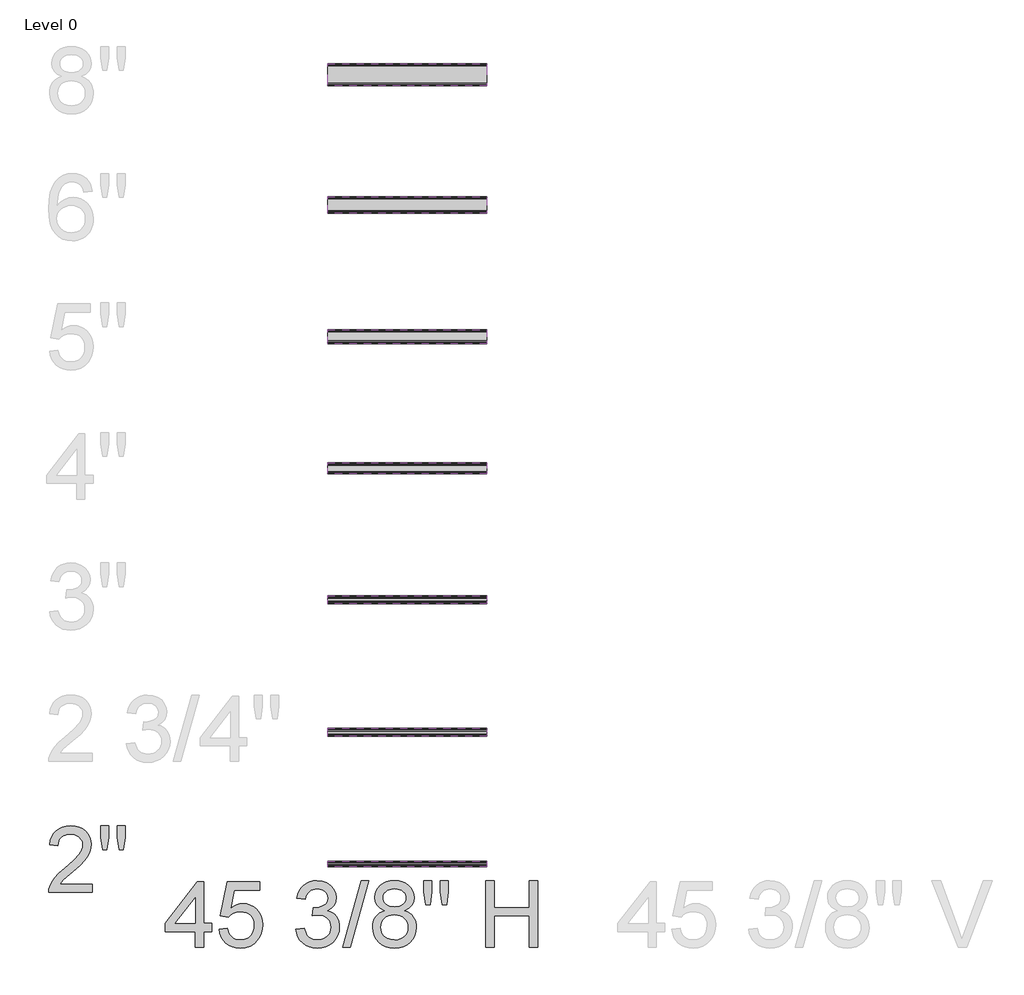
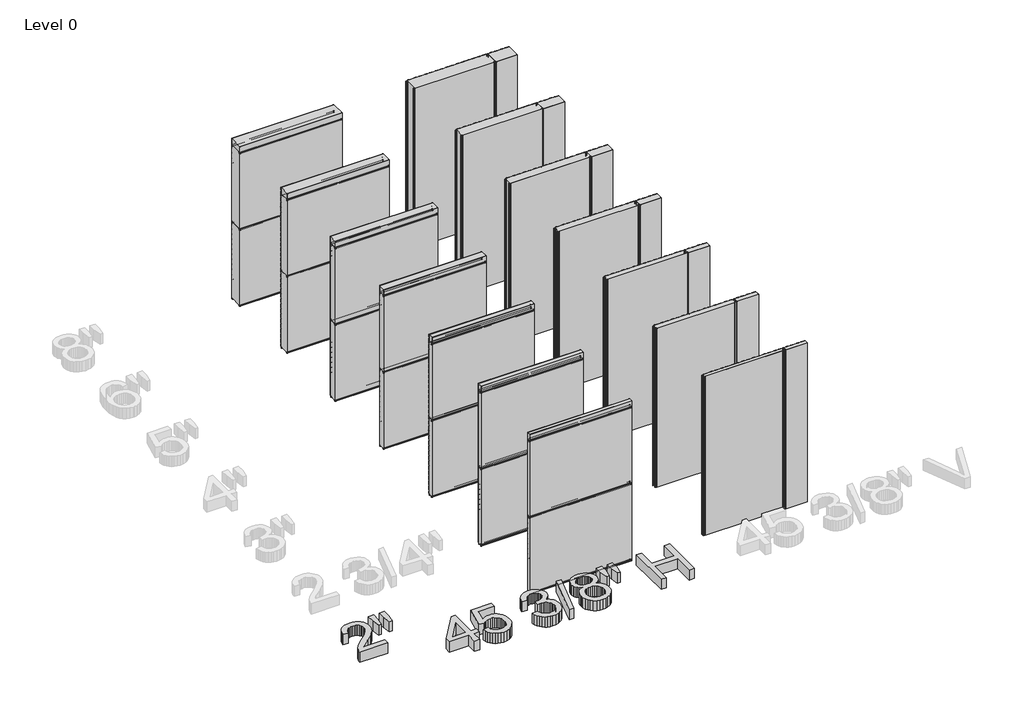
# One storey, part 1 of 4: 35 plates, 2 proxies.
"""IFC4 building model written with IfcOpenShell, lengths in millimetres."""

from ifc_helpers import new_model, si_unit, origin, origin_with_axes, place, context, project, spatial, polyline, outline, extrude, transform, mapped, element, save
from components import plate_b4bd3f8d, plate_808f4461, plate_7cffec9f, plate_dfe21606, plate_f405e83f, plate_c9c1584d, plate_8344565c, plate_b0cb46f3, plate_9a0fc9c3, plate_41ea3fa6, plate_d1124c66, plate_76d6c2d0, plate_83f6242e, plate_c82851e5, plate_ce0f698b, plate_97a75773, plate_03f01161, plate_ad2471ad, plate_72227fcf, plate_d750eb13, plate_2a786ad6, plate_18e5794d, plate_cbcabc05, plate_6ea44dff, plate_e84ce2d3, plate_d6ec243f, plate_7eeeccd8, plate_f524b7f3, plate_4dfbf4fa, plate_f636fb03, plate_2ca165b3, plate_3c036621, plate_5dd1f924, plate_6aa7e515, plate_86622dce, plate_694a5b55, plate_7aa5751e, plate_44be25aa, plate_39fb91ab, plate_13c998c9, plate_3bc6385e, plate_881e7684, plate_8b274d8f, plate_b0e5fa2d

model = new_model("IFC4")

# Units and contexts
model_context = context("Model", 3, world=origin())
ifc_project = project(units=[si_unit("LENGTHUNIT", "METRE", prefix="MILLI")], contexts=[model_context])

# Site, building, storey
site = spatial("IfcSite", under=ifc_project)
building = spatial("IfcBuilding", under=site)
storey = spatial("IfcBuildingStorey", under=building, Name="Level 0", Elevation=0.0)

# Proxies
placement = place(None, origin())
element("IfcBuildingElementProxy", 1, Name="24\" Arial", ObjectType="24\" Arial", at=placement, inside=storey, context=model_context, shape_type="SweptSolid", body=[
    extrude(outline(polyline([(-10393.0706225, 6438.6033745), (-10393.0706225, 6581.3691999), (-10669.0845515, 6581.3691999), (-10669.0845515, 6657.5109734), (-10374.0351791, 7038.219841), (-10316.928849, 7038.219841), (-10316.928849, 6657.5109734), (-10240.7870755, 6657.5109734), (-10240.7870755, 6581.3691999), (-10316.928849, 6581.3691999), (-10316.928849, 6438.6033745), (-10393.0706225, 6438.6033745)]), holes=[polyline([(-10393.0706225, 6657.5109734), (-10393.0706225, 6892.7771564), (-10575.3944786, 6657.5109734), (-10393.0706225, 6657.5109734)])]), origin_with_axes(), (0.0, 0.0, 1.0), 152.4),
    extrude(outline(polyline([(-10174.1630236, 6600.4046433), (-10098.0212501, 6609.922365), (-10092.3329243, 6585.4449039), (-10084.0420964, 6564.2112758), (-10073.1487665, 6546.2214806), (-10059.6529346, 6531.4755182), (-10043.5824846, 6519.991978), (-10024.9653004, 6511.7894493), (-10003.8013822, 6506.8679321), (-9980.0907298, 6505.2274264), (-9951.0914215, 6507.509263), (-9925.5125445, 6514.3547728), (-9903.3540987, 6525.7639557), (-9884.6160841, 6541.7368119), (-9869.71676, 6561.483296), (-9859.0743857, 6584.2133628), (-9852.6889611, 6609.9270123), (-9850.5604862, 6638.6242444), (-9852.5541886, 6665.7460334), (-9858.535296, 6689.8563557), (-9868.5038082, 6710.9552114), (-9882.4597253, 6729.0426005), (-9900.4495205, 6743.5515493), (-9922.5196672, 6753.9150841), (-9948.6701652, 6760.133205), (-9978.9010146, 6762.205912), (-10015.837954, 6758.8970166), (-10045.748138, 6748.9703303), (-10069.6353888, 6733.7642827), (-10088.5035284, 6714.6173035), (-10164.6453019, 6724.1350252), (-10098.0212501, 7038.219841), (-9802.9718777, 7038.219841), (-9802.9718777, 6962.0780675), (-10036.4534879, 6962.0780675), (-10069.0219418, 6794.3282227), (-10042.1511084, 6813.5867377), (-10014.6296495, 6827.3428198), (-9986.4575651, 6835.5964691), (-9957.6348552, 6838.3476855), (-9920.5538487, 6834.9365489), (-9886.4936034, 6824.7031392), (-9855.4541195, 6807.6474563), (-9827.4353968, 6783.7695002), (-9804.2405975, 6754.528531), (-9787.6728837, 6721.3838088), (-9777.7322554, 6684.3353336), (-9774.4187127, 6643.3831053), (-9777.4022954, 6603.9366103), (-9786.3530434, 6567.2413317), (-9801.2709568, 6533.2972696), (-9822.1560355, 6502.1044239), (-9853.7950244, 6470.1587116), (-9890.7133746, 6447.3403456), (-9932.911086, 6433.649326), (-9980.3881586, 6429.0856528), (-10019.6812919, 6432.018115), (-10055.1729132, 6440.8155013), (-10086.8630227, 6455.4778118), (-10114.7516203, 6476.0050465), (-10137.9557142, 6501.3747939), (-10155.5923128, 6530.5646425), (-10167.6614159, 6563.5745923), (-10174.1630236, 6600.4046433)])), origin_with_axes(), (0.0, 0.0, 1.0), 152.4),
    extrude(outline(polyline([(-9469.8516186, 6600.4046433), (-9393.7098451, 6609.922365), (-9376.6634568, 6562.0735063), (-9365.170622, 6543.9768226), (-9351.6980267, 6529.7653026), (-9335.9389475, 6519.0299817), (-9317.5866609, 6511.3618954), (-9296.6411669, 6506.7610436), (-9273.1024656, 6505.2274264), (-9245.5159441, 6507.3373119), (-9220.9037107, 6513.6669686), (-9199.2657653, 6524.2163965), (-9180.6021079, 6538.9855955), (-9165.5726587, 6556.8685023), (-9154.8373378, 6576.7590534), (-9148.3961453, 6598.657249), (-9146.2490812, 6622.5630891), (-9148.377556, 6645.3303345), (-9154.7629806, 6666.0434622), (-9165.405355, 6684.7024722), (-9180.3046791, 6701.3073646), (-9198.4850146, 6714.937969), (-9218.9704234, 6724.6741149), (-9241.7609055, 6730.5158025), (-9266.8564607, 6732.4630317), (-9290.9110151, 6730.3810301), (-9320.2449308, 6724.1350252), (-9311.7682099, 6800.2767987), (-9299.573629, 6799.3845123), (-9253.9554864, 6804.8497666), (-9213.1705618, 6821.2455293), (-9196.3844237, 6833.6445926), (-9184.3943251, 6848.9807652), (-9177.2002659, 6867.2540473), (-9174.8022462, 6888.4644388), (-9176.5403458, 6905.6827781), (-9181.7546445, 6921.3489108), (-9190.4451423, 6935.4628369), (-9202.6118393, 6948.0245565), (-9217.520458, 6958.3369708), (-9234.4367212, 6965.702981), (-9253.3606288, 6970.1225871), (-9274.2921808, 6971.5957892), (-9295.1679649, 6970.1086451), (-9314.2219975, 6965.6472131), (-9331.4542788, 6958.211493), (-9346.8648086, 6947.8014849), (-9360.0725064, 6934.4171888), (-9370.6962915, 6918.0586047), (-9378.7361638, 6898.7257325), (-9384.1921234, 6876.4185723), (-9460.3338969, 6885.936294), (-9451.3087917, 6922.2876704), (-9437.9152009, 6954.30774), (-9420.1531246, 6981.9965026), (-9398.0225627, 7005.3539583), (-9372.2206141, 7023.8967852), (-9343.4443774, 7037.1416616), (-9311.6938527, 7045.0885874), (-9276.96904, 7047.7375627), (-9229.101592, 7042.5139693), (-9185.1378971, 7026.8431893), (-9148.0708326, 7002.11942), (-9120.8932757, 6969.7368591), (-9104.2186735, 6932.4281337), (-9098.6604727, 6892.9258708), (-9103.939834, 6856.1190565), (-9119.7779177, 6822.7326734), (-9145.9516524, 6794.2910441), (-9182.2379663, 6772.3184913), (-9156.8635716, 6764.3808601), (-9134.5750006, 6753.0599763), (-9115.3722536, 6738.3558399), (-9099.2553303, 6720.2684508), (-9086.5030704, 6699.2439523), (-9077.3943133, 6675.7284876), (-9071.9290591, 6649.7220566), (-9070.1073076, 6621.2246595), (-9073.7508105, 6582.5960937), (-9084.681319, 6547.0161732), (-9102.8988331, 6514.4848979), (-9128.403353, 6485.0022678), (-9159.4753682, 6460.5387487), (-9194.3953686, 6443.0648066), (-9233.1633541, 6432.5804413), (-9275.7793248, 6429.0856528), (-9314.2963547, 6432.0692355), (-9349.3929535, 6441.0199836), (-9381.069121, 6455.937897), (-9409.3248572, 6476.8229757), (-9433.0169203, 6502.448326), (-9451.0020682, 6531.587054), (-9463.280301, 6564.2391598), (-9469.8516186, 6600.4046433)])), origin_with_axes(), (0.0, 0.0, 1.0), 152.4),
    extrude(outline(polyline([(-9041.5541426, 6438.6033745), (-8870.2351522, 7047.7375627), (-8801.5290987, 7047.7375627), (-8972.8480891, 6438.6033745), (-9041.5541426, 6438.6033745)])), origin_with_axes(), (0.0, 0.0, 1.0), 152.4),
    extrude(outline(polyline([(-8654.5992701, 6774.1030641), (-8695.3656054, 6794.1795083), (-8711.1897472, 6806.8945896), (-8723.9745384, 6821.3942437), (-8733.8315148, 6837.5390509), (-8740.8722122, 6855.1895915), (-8746.5047702, 6895.0078724), (-8743.4375357, 6926.0612984), (-8734.2358321, 6954.5308116), (-8718.8996594, 6980.4164121), (-8697.4290177, 7003.7180999), (-8670.8556131, 7022.9766148), (-8640.2111518, 7036.732697), (-8605.4956337, 7044.9863462), (-8566.7090589, 7047.7375627), (-8527.7365911, 7044.9212837), (-8492.7608228, 7036.4724468), (-8461.7817541, 7022.3910519), (-8434.7993849, 7002.677099), (-8412.9383679, 6978.9199734), (-8397.3233557, 6952.7090602), (-8387.9543484, 6924.0443593), (-8384.831346, 6892.9258708), (-8390.3895467, 6854.3902516), (-8407.064149, 6821.1711721), (-8419.6165739, 6806.7691118), (-8435.0410458, 6794.1237404), (-8474.50613, 6774.1030641), (-8449.4802847, 6763.4560424), (-8427.6425043, 6749.9555632), (-8408.9927889, 6733.6016263), (-8393.5311385, 6714.3942319), (-8381.3969728, 6692.7609339), (-8372.7297116, 6669.129286), (-8367.5293548, 6643.4992884), (-8365.7959026, 6615.870941), (-8369.2349231, 6577.8930007), (-8379.5519847, 6543.0752415), (-8396.7470874, 6511.4176633), (-8420.8202311, 6482.9202662), (-8450.5073435, 6459.3676228), (-8484.5443521, 6442.5443062), (-8522.931257, 6432.4503162), (-8565.6680581, 6429.0856528), (-8608.4048592, 6432.4642582), (-8646.7917641, 6442.6000741), (-8680.8287727, 6459.4931006), (-8710.5158851, 6483.1433378), (-8734.5890288, 6511.8405699), (-8751.7841314, 6543.8745814), (-8762.101193, 6579.2453723), (-8765.5402136, 6617.9529426), (-8763.7370515, 6646.8407151), (-8758.3275651, 6673.2746999), (-8749.3117545, 6697.2548972), (-8736.6896197, 6718.7813068), (-8720.7400002, 6737.4635535), (-8701.7417354, 6752.9112619), (-8679.6948254, 6765.1244321), (-8654.5992701, 6774.1030641)]), holes=[polyline([(-8670.3629967, 6892.7771564), (-8668.6760177, 6875.3218036), (-8663.6150807, 6859.5394877), (-8655.1801858, 6845.4302089), (-8643.3713328, 6832.9939671), (-8628.3372363, 6822.8442092), (-8610.2266106, 6815.5943821), (-8589.0394557, 6811.2444858), (-8564.7757717, 6809.7945204), (-8541.1115926, 6811.2351912), (-8520.3845229, 6815.5572035), (-8502.5945626, 6822.7605573), (-8487.7417118, 6832.8452527), (-8476.0304526, 6845.0212443), (-8467.6652676, 6858.4984869), (-8462.6461565, 6873.2769805), (-8460.9731195, 6889.3567252), (-8462.7019244, 6906.0638587), (-8467.8883392, 6921.3860894), (-8476.5323638, 6935.3234172), (-8488.6339982, 6947.8758421), (-8503.8214564, 6958.253319), (-8521.7229525, 6965.6658024), (-8542.3384864, 6970.1132925), (-8565.6680581, 6971.5957892), (-8589.1788755, 6970.1458237), (-8609.8920032, 6965.7959275), (-8627.8074413, 6958.5461004), (-8642.9251896, 6948.3963425), (-8654.9292302, 6936.2203509), (-8663.5035449, 6922.8918227), (-8668.6481337, 6908.4107579), (-8670.3629967, 6892.7771564)]), polyline([(-8689.3984401, 6620.6298019), (-8686.2196697, 6591.5003685), (-8676.6833587, 6563.3004001), (-8659.0792915, 6538.706756), (-8631.6972523, 6520.3962953), (-8598.9057268, 6509.0196436), (-8565.0732005, 6505.2274264), (-8537.5424469, 6507.2211288), (-8513.2462316, 6513.2022361), (-8492.1845545, 6523.1707484), (-8474.3574156, 6537.1266655), (-8460.1737796, 6554.1591118), (-8450.042611, 6573.3572115), (-8443.9639098, 6594.7209647), (-8441.9376761, 6618.2503714), (-8444.0289724, 6642.1562115), (-8450.3028612, 6663.9056927), (-8460.7593426, 6683.498815), (-8475.3984164, 6700.9355786), (-8493.7088771, 6715.2493397), (-8515.1795188, 6725.4734548), (-8539.8103415, 6731.6079239), (-8567.6013453, 6733.6527469), (-8594.7277816, 6731.6358078), (-8618.7033315, 6725.5849906), (-8639.527995, 6715.5002953), (-8657.2017722, 6701.3817218), (-8671.2878144, 6684.2330924), (-8681.3492731, 6665.0582293), (-8687.3861483, 6643.8571324), (-8689.3984401, 6620.6298019)])]), origin_with_axes(), (0.0, 0.0, 1.0), 152.4),
    extrude(outline(polyline([(-8280.5825506, 6828.8299638), (-8299.1718508, 6946.4630553), (-8299.1718508, 7047.7375627), (-8223.0300773, 7047.7375627), (-8223.0300773, 6946.4630553), (-8239.6860902, 6828.8299638), (-8280.5825506, 6828.8299638)])), origin_with_axes(), (0.0, 0.0, 1.0), 152.4),
    extrude(outline(polyline([(-8128.7451468, 6828.8299638), (-8146.8883037, 6946.4630553), (-8146.8883037, 7047.7375627), (-8070.7465302, 7047.7375627), (-8070.7465302, 6946.4630553), (-8088.5922584, 6828.8299638), (-8128.7451468, 6828.8299638)])), origin_with_axes(), (0.0, 0.0, 1.0), 152.4),
    extrude(outline(polyline([(-7728.1085494, 6438.6033745), (-7728.1085494, 7047.7375627), (-7651.9667759, 7047.7375627), (-7651.9667759, 6800.2767987), (-7328.3642384, 6800.2767987), (-7328.3642384, 7047.7375627), (-7252.2224649, 7047.7375627), (-7252.2224649, 6438.6033745), (-7328.3642384, 6438.6033745), (-7328.3642384, 6724.1350252), (-7651.9667759, 6724.1350252), (-7651.9667759, 6438.6033745), (-7728.1085494, 6438.6033745)])), origin_with_axes(), (0.0, 0.0, 1.0), 152.4),
])
element("IfcBuildingElementProxy", 2, Name="24\" Arial", ObjectType="24\" Arial", at=placement, inside=storey, context=model_context, shape_type="SweptSolid", body=[
    extrude(outline(polyline([(-11338.064642, 7016.681133), (-11338.064642, 6940.5393595), (-11737.808953, 6940.5393595), (-11736.135916, 6967.3451304), (-11729.6296609, 6993.0355432), (-11710.8544677, 7034.0621287), (-11683.3794821, 7073.8618204), (-11643.6355583, 7115.520442), (-11588.0535508, 7162.1238176), (-11505.888844, 7235.1054101), (-11456.5900199, 7288.977202), (-11442.2111963, 7310.9869334), (-11431.9406079, 7332.699236), (-11425.7782549, 7354.1141098), (-11423.7241372, 7375.2315548), (-11425.6620718, 7395.0988694), (-11431.4758754, 7413.3582095), (-11441.1655481, 7430.0095751), (-11454.7310899, 7445.0529662), (-11471.4196342, 7457.5124447), (-11490.4783142, 7466.4120722), (-11511.9071299, 7471.7518486), (-11535.7060815, 7473.5317741), (-11560.7784001, 7471.7936746), (-11583.2017434, 7466.5793759), (-11602.9761115, 7457.888878), (-11620.1015043, 7445.7221811), (-11633.9551802, 7430.4882496), (-11643.9143978, 7412.5960481), (-11649.979157, 7392.0455768), (-11652.1494578, 7368.8368355), (-11728.2912313, 7378.3545572), (-11721.7431503, 7417.6616324), (-11709.8320562, 7452.0053645), (-11692.557949, 7481.3857534), (-11669.9208288, 7505.8027992), (-11642.4411958, 7524.9962517), (-11610.6395505, 7538.7058605), (-11574.5158929, 7546.9316259), (-11534.0702231, 7549.6735476), (-11493.2620619, 7546.6249024), (-11456.9432167, 7537.4789667), (-11425.1136874, 7522.2357406), (-11397.7734742, 7500.895224), (-11375.8148634, 7475.0375074), (-11360.1301413, 7446.2426815), (-11350.7193081, 7414.5107461), (-11347.5823637, 7379.8417012), (-11350.9656164, 7343.4252622), (-11361.1153742, 7307.6408594), (-11379.1284061, 7271.2430096), (-11406.1014807, 7232.9862299), (-11449.098532, 7187.3123193), (-11515.1834941, 7128.6630773), (-11602.7762765, 7055.4212346), (-11637.1293032, 7016.681133), (-11338.064642, 7016.681133)])), origin_with_axes(), (0.0, 0.0, 1.0), 152.4),
    extrude(outline(polyline([(-11243.3335683, 7330.7659488), (-11261.9228685, 7448.3990403), (-11261.9228685, 7549.6735476), (-11185.781095, 7549.6735476), (-11185.781095, 7448.3990403), (-11202.437108, 7330.7659488), (-11243.3335683, 7330.7659488)])), origin_with_axes(), (0.0, 0.0, 1.0), 152.4),
    extrude(outline(polyline([(-11091.4961645, 7330.7659488), (-11109.6393215, 7448.3990403), (-11109.6393215, 7549.6735476), (-11033.497548, 7549.6735476), (-11033.497548, 7448.3990403), (-11051.3432761, 7330.7659488), (-11091.4961645, 7330.7659488)])), origin_with_axes(), (0.0, 0.0, 1.0), 152.4),
])

# Plates
plate_shape = plate_b4bd3f8d(model_context)
plate_2_shape = plate_808f4461(model_context)
plate_3_shape = plate_7cffec9f(model_context)
element("IfcPlate", 3, ObjectType="KIP-SLI-FLI-R19-CP-Hz-FL_SL : Hz 2\"", at=placement, inside=storey, context=model_context, shape_type="MappedRepresentation", body=[
    mapped(plate_shape, transform((-8448.7250935, 7224.2207172, 0.0), x_axis=(1.0, 0.0, 0.0), y_axis=(0.0, 1.0, 0.0), z_axis=(0.0, 0.0, 1.0))),
    mapped(plate_2_shape, transform((-8448.7250935, 7224.2207172, 0.0), x_axis=(1.0, 0.0, 0.0), y_axis=(0.0, 1.0, 0.0), z_axis=(0.0, 0.0, 1.0))),
    mapped(plate_3_shape, transform((-8448.7250935, 7224.2207172, 0.0), x_axis=(1.0, 0.0, 0.0), y_axis=(0.0, 1.0, 0.0), z_axis=(0.0, 0.0, 1.0))),
])
element("IfcPlate", 4, ObjectType="KIP-SLI-FLI-R19-CP-Hz-FL_SL : Hz 2\"", at=placement, inside=storey, context=model_context, shape_type="MappedRepresentation", body=[
    mapped(plate_shape, transform((-8448.7250935, 7224.2207172, 1152.525), x_axis=(1.0, 0.0, 0.0), y_axis=(0.0, 1.0, 0.0), z_axis=(0.0, 0.0, 1.0))),
    mapped(plate_2_shape, transform((-8448.7250935, 7224.2207172, 1152.525), x_axis=(1.0, 0.0, 0.0), y_axis=(0.0, 1.0, 0.0), z_axis=(0.0, 0.0, 1.0))),
    mapped(plate_3_shape, transform((-8448.7250935, 7224.2207172, 1152.525), x_axis=(1.0, 0.0, 0.0), y_axis=(0.0, 1.0, 0.0), z_axis=(0.0, 0.0, 1.0))),
])
plate_4_shape = plate_dfe21606(model_context)
element("IfcPlate", 5, ObjectType="KIP-SLI-FLI-R19-CP-Hz-FL_SL : Hz 2\"", at=placement, inside=storey, context=model_context, shape_type="MappedRepresentation", body=[
    mapped(plate_4_shape, transform((-8448.7250935, 7224.2207172, 2305.05), x_axis=(1.0, 0.0, 0.0), y_axis=(0.0, 1.0, 0.0), z_axis=(0.0, 0.0, 1.0))),
])
plate_5_shape = plate_f405e83f(model_context)
plate_6_shape = plate_c9c1584d(model_context)
element("IfcPlate", 6, ObjectType="KIP-SLI-FLI-R19-CP-Hz-FL_SL : Hz 2.75\"", at=placement, inside=storey, context=model_context, shape_type="MappedRepresentation", body=[
    mapped(plate_5_shape, transform((-8448.7250935, 8443.4207172, 0.0), x_axis=(1.0, 0.0, 0.0), y_axis=(0.0, 1.0, 0.0), z_axis=(0.0, 0.0, 1.0))),
    mapped(plate_2_shape, transform((-8448.7250935, 8443.4207172, 0.0), x_axis=(1.0, 0.0, 0.0), y_axis=(0.0, 1.0, 0.0), z_axis=(0.0, 0.0, 1.0))),
    mapped(plate_6_shape, transform((-8448.7250935, 8443.4207172, 0.0), x_axis=(1.0, 0.0, 0.0), y_axis=(0.0, 1.0, 0.0), z_axis=(0.0, 0.0, 1.0))),
])
element("IfcPlate", 7, ObjectType="KIP-SLI-FLI-R19-CP-Hz-FL_SL : Hz 2.75\"", at=placement, inside=storey, context=model_context, shape_type="MappedRepresentation", body=[
    mapped(plate_5_shape, transform((-8448.7250935, 8443.4207172, 1152.525), x_axis=(1.0, 0.0, 0.0), y_axis=(0.0, 1.0, 0.0), z_axis=(0.0, 0.0, 1.0))),
    mapped(plate_2_shape, transform((-8448.7250935, 8443.4207172, 1152.525), x_axis=(1.0, 0.0, 0.0), y_axis=(0.0, 1.0, 0.0), z_axis=(0.0, 0.0, 1.0))),
    mapped(plate_6_shape, transform((-8448.7250935, 8443.4207172, 1152.525), x_axis=(1.0, 0.0, 0.0), y_axis=(0.0, 1.0, 0.0), z_axis=(0.0, 0.0, 1.0))),
])
plate_7_shape = plate_8344565c(model_context)
element("IfcPlate", 8, ObjectType="KIP-SLI-FLI-R19-CP-Hz-FL_SL : Hz 2.75\"", at=placement, inside=storey, context=model_context, shape_type="MappedRepresentation", body=[
    mapped(plate_7_shape, transform((-8448.7250935, 8443.4207172, 2305.05), x_axis=(1.0, 0.0, 0.0), y_axis=(0.0, 1.0, 0.0), z_axis=(0.0, 0.0, 1.0))),
])
plate_8_shape = plate_b0cb46f3(model_context)
plate_9_shape = plate_9a0fc9c3(model_context)
element("IfcPlate", 9, ObjectType="KIP-SLI-FLI-R19-CP-Hz-FL_SL : Hz 3\"", at=placement, inside=storey, context=model_context, shape_type="MappedRepresentation", body=[
    mapped(plate_8_shape, transform((-8448.7250935, 9662.6207172, 0.0), x_axis=(1.0, 0.0, 0.0), y_axis=(0.0, 1.0, 0.0), z_axis=(0.0, 0.0, 1.0))),
    mapped(plate_2_shape, transform((-8448.7250935, 9662.6207172, 0.0), x_axis=(1.0, 0.0, 0.0), y_axis=(0.0, 1.0, 0.0), z_axis=(0.0, 0.0, 1.0))),
    mapped(plate_9_shape, transform((-8448.7250935, 9662.6207172, 0.0), x_axis=(1.0, 0.0, 0.0), y_axis=(0.0, 1.0, 0.0), z_axis=(0.0, 0.0, 1.0))),
])
element("IfcPlate", 10, ObjectType="KIP-SLI-FLI-R19-CP-Hz-FL_SL : Hz 3\"", at=placement, inside=storey, context=model_context, shape_type="MappedRepresentation", body=[
    mapped(plate_8_shape, transform((-8448.7250935, 9662.6207172, 1152.525), x_axis=(1.0, 0.0, 0.0), y_axis=(0.0, 1.0, 0.0), z_axis=(0.0, 0.0, 1.0))),
    mapped(plate_2_shape, transform((-8448.7250935, 9662.6207172, 1152.525), x_axis=(1.0, 0.0, 0.0), y_axis=(0.0, 1.0, 0.0), z_axis=(0.0, 0.0, 1.0))),
    mapped(plate_9_shape, transform((-8448.7250935, 9662.6207172, 1152.525), x_axis=(1.0, 0.0, 0.0), y_axis=(0.0, 1.0, 0.0), z_axis=(0.0, 0.0, 1.0))),
])
plate_10_shape = plate_41ea3fa6(model_context)
element("IfcPlate", 11, ObjectType="KIP-SLI-FLI-R19-CP-Hz-FL_SL : Hz 3\"", at=placement, inside=storey, context=model_context, shape_type="MappedRepresentation", body=[
    mapped(plate_10_shape, transform((-8448.7250935, 9662.6207172, 2305.05), x_axis=(1.0, 0.0, 0.0), y_axis=(0.0, 1.0, 0.0), z_axis=(0.0, 0.0, 1.0))),
])
plate_11_shape = plate_d1124c66(model_context)
plate_12_shape = plate_76d6c2d0(model_context)
element("IfcPlate", 12, ObjectType="KIP-SLI-FLI-R19-CP-Hz-FL_SL : Hz 4\"", at=placement, inside=storey, context=model_context, shape_type="MappedRepresentation", body=[
    mapped(plate_11_shape, transform((-8448.7250935, 10881.8207172, 0.0), x_axis=(1.0, 0.0, 0.0), y_axis=(0.0, 1.0, 0.0), z_axis=(0.0, 0.0, 1.0))),
    mapped(plate_2_shape, transform((-8448.7250935, 10881.8207172, 0.0), x_axis=(1.0, 0.0, 0.0), y_axis=(0.0, 1.0, 0.0), z_axis=(0.0, 0.0, 1.0))),
    mapped(plate_12_shape, transform((-8448.7250935, 10881.8207172, 0.0), x_axis=(1.0, 0.0, 0.0), y_axis=(0.0, 1.0, 0.0), z_axis=(0.0, 0.0, 1.0))),
])
element("IfcPlate", 13, ObjectType="KIP-SLI-FLI-R19-CP-Hz-FL_SL : Hz 4\"", at=placement, inside=storey, context=model_context, shape_type="MappedRepresentation", body=[
    mapped(plate_11_shape, transform((-8448.7250935, 10881.8207172, 1152.525), x_axis=(1.0, 0.0, 0.0), y_axis=(0.0, 1.0, 0.0), z_axis=(0.0, 0.0, 1.0))),
    mapped(plate_2_shape, transform((-8448.7250935, 10881.8207172, 1152.525), x_axis=(1.0, 0.0, 0.0), y_axis=(0.0, 1.0, 0.0), z_axis=(0.0, 0.0, 1.0))),
    mapped(plate_12_shape, transform((-8448.7250935, 10881.8207172, 1152.525), x_axis=(1.0, 0.0, 0.0), y_axis=(0.0, 1.0, 0.0), z_axis=(0.0, 0.0, 1.0))),
])
plate_13_shape = plate_83f6242e(model_context)
element("IfcPlate", 14, ObjectType="KIP-SLI-FLI-R19-CP-Hz-FL_SL : Hz 4\"", at=placement, inside=storey, context=model_context, shape_type="MappedRepresentation", body=[
    mapped(plate_13_shape, transform((-8448.7250935, 10881.8207172, 2305.05), x_axis=(1.0, 0.0, 0.0), y_axis=(0.0, 1.0, 0.0), z_axis=(0.0, 0.0, 1.0))),
])
plate_14_shape = plate_c82851e5(model_context)
element("IfcPlate", 15, ObjectType="KIP-SLI-FLI-R19-CP-Hz-FL_SL : Hz 5\"", at=placement, inside=storey, context=model_context, shape_type="MappedRepresentation", body=[
    mapped(plate_14_shape, transform((-8448.7250935, 12101.0207172, 2305.05), x_axis=(1.0, 0.0, 0.0), y_axis=(0.0, 1.0, 0.0), z_axis=(0.0, 0.0, 1.0))),
])
plate_15_shape = plate_ce0f698b(model_context)
plate_16_shape = plate_97a75773(model_context)
element("IfcPlate", 16, ObjectType="KIP-SLI-FLI-R19-CP-Hz-FL_SL : Hz 5\"", at=placement, inside=storey, context=model_context, shape_type="MappedRepresentation", body=[
    mapped(plate_15_shape, transform((-8448.7250935, 12101.0207172, 0.0), x_axis=(1.0, 0.0, 0.0), y_axis=(0.0, 1.0, 0.0), z_axis=(0.0, 0.0, 1.0))),
    mapped(plate_2_shape, transform((-8448.7250935, 12101.0207172, 0.0), x_axis=(1.0, 0.0, 0.0), y_axis=(0.0, 1.0, 0.0), z_axis=(0.0, 0.0, 1.0))),
    mapped(plate_16_shape, transform((-8448.7250935, 12101.0207172, 0.0), x_axis=(1.0, 0.0, 0.0), y_axis=(0.0, 1.0, 0.0), z_axis=(0.0, 0.0, 1.0))),
])
element("IfcPlate", 17, ObjectType="KIP-SLI-FLI-R19-CP-Hz-FL_SL : Hz 5\"", at=placement, inside=storey, context=model_context, shape_type="MappedRepresentation", body=[
    mapped(plate_15_shape, transform((-8448.7250935, 12101.0207172, 1152.525), x_axis=(1.0, 0.0, 0.0), y_axis=(0.0, 1.0, 0.0), z_axis=(0.0, 0.0, 1.0))),
    mapped(plate_2_shape, transform((-8448.7250935, 12101.0207172, 1152.525), x_axis=(1.0, 0.0, 0.0), y_axis=(0.0, 1.0, 0.0), z_axis=(0.0, 0.0, 1.0))),
    mapped(plate_16_shape, transform((-8448.7250935, 12101.0207172, 1152.525), x_axis=(1.0, 0.0, 0.0), y_axis=(0.0, 1.0, 0.0), z_axis=(0.0, 0.0, 1.0))),
])
plate_17_shape = plate_03f01161(model_context)
plate_18_shape = plate_ad2471ad(model_context)
element("IfcPlate", 18, ObjectType="KIP-SLI-FLI-R19-CP-Hz-FL_SL : Hz 6\"", at=placement, inside=storey, context=model_context, shape_type="MappedRepresentation", body=[
    mapped(plate_17_shape, transform((-8448.7250935, 13320.2207172, 0.0), x_axis=(1.0, 0.0, 0.0), y_axis=(0.0, 1.0, 0.0), z_axis=(0.0, 0.0, 1.0))),
    mapped(plate_2_shape, transform((-8448.7250935, 13320.2207172, 0.0), x_axis=(1.0, 0.0, 0.0), y_axis=(0.0, 1.0, 0.0), z_axis=(0.0, 0.0, 1.0))),
    mapped(plate_18_shape, transform((-8448.7250935, 13320.2207172, 0.0), x_axis=(1.0, 0.0, 0.0), y_axis=(0.0, 1.0, 0.0), z_axis=(0.0, 0.0, 1.0))),
])
element("IfcPlate", 19, ObjectType="KIP-SLI-FLI-R19-CP-Hz-FL_SL : Hz 6\"", at=placement, inside=storey, context=model_context, shape_type="MappedRepresentation", body=[
    mapped(plate_17_shape, transform((-8448.7250935, 13320.2207172, 1152.525), x_axis=(1.0, 0.0, 0.0), y_axis=(0.0, 1.0, 0.0), z_axis=(0.0, 0.0, 1.0))),
    mapped(plate_2_shape, transform((-8448.7250935, 13320.2207172, 1152.525), x_axis=(1.0, 0.0, 0.0), y_axis=(0.0, 1.0, 0.0), z_axis=(0.0, 0.0, 1.0))),
    mapped(plate_18_shape, transform((-8448.7250935, 13320.2207172, 1152.525), x_axis=(1.0, 0.0, 0.0), y_axis=(0.0, 1.0, 0.0), z_axis=(0.0, 0.0, 1.0))),
])
plate_19_shape = plate_72227fcf(model_context)
element("IfcPlate", 20, ObjectType="KIP-SLI-FLI-R19-CP-Hz-FL_SL : Hz 6\"", at=placement, inside=storey, context=model_context, shape_type="MappedRepresentation", body=[
    mapped(plate_19_shape, transform((-8448.7250935, 13320.2207172, 2305.05), x_axis=(1.0, 0.0, 0.0), y_axis=(0.0, 1.0, 0.0), z_axis=(0.0, 0.0, 1.0))),
])
plate_20_shape = plate_d750eb13(model_context)
plate_21_shape = plate_2a786ad6(model_context)
element("IfcPlate", 21, ObjectType="KIP-SLI-FLI-R19-CP-Hz-FL_SL : Hz 8\"", at=placement, inside=storey, context=model_context, shape_type="MappedRepresentation", body=[
    mapped(plate_20_shape, transform((-8448.7250935, 14539.4207172, 0.0), x_axis=(1.0, 0.0, 0.0), y_axis=(0.0, 1.0, 0.0), z_axis=(0.0, 0.0, 1.0))),
    mapped(plate_2_shape, transform((-8448.7250935, 14539.4207172, 0.0), x_axis=(1.0, 0.0, 0.0), y_axis=(0.0, 1.0, 0.0), z_axis=(0.0, 0.0, 1.0))),
    mapped(plate_21_shape, transform((-8448.7250935, 14539.4207172, 0.0), x_axis=(1.0, 0.0, 0.0), y_axis=(0.0, 1.0, 0.0), z_axis=(0.0, 0.0, 1.0))),
])
element("IfcPlate", 22, ObjectType="KIP-SLI-FLI-R19-CP-Hz-FL_SL : Hz 8\"", at=placement, inside=storey, context=model_context, shape_type="MappedRepresentation", body=[
    mapped(plate_20_shape, transform((-8448.7250935, 14539.4207172, 1152.525), x_axis=(1.0, 0.0, 0.0), y_axis=(0.0, 1.0, 0.0), z_axis=(0.0, 0.0, 1.0))),
    mapped(plate_2_shape, transform((-8448.7250935, 14539.4207172, 1152.525), x_axis=(1.0, 0.0, 0.0), y_axis=(0.0, 1.0, 0.0), z_axis=(0.0, 0.0, 1.0))),
    mapped(plate_21_shape, transform((-8448.7250935, 14539.4207172, 1152.525), x_axis=(1.0, 0.0, 0.0), y_axis=(0.0, 1.0, 0.0), z_axis=(0.0, 0.0, 1.0))),
])
plate_22_shape = plate_18e5794d(model_context)
element("IfcPlate", 23, ObjectType="KIP-SLI-FLI-R19-CP-Hz-FL_SL : Hz 8\"", at=placement, inside=storey, context=model_context, shape_type="MappedRepresentation", body=[
    mapped(plate_22_shape, transform((-8448.7250935, 14539.4207172, 2305.05), x_axis=(1.0, 0.0, 0.0), y_axis=(0.0, 1.0, 0.0), z_axis=(0.0, 0.0, 1.0))),
])
plate_23_shape = plate_cbcabc05(model_context)
plate_24_shape = plate_6ea44dff(model_context)
plate_25_shape = plate_e84ce2d3(model_context)
element("IfcPlate", 24, ObjectType="KIP-SLI-FLI-R19-CP-Vt-FL_SL : Vt 2\"", at=placement, inside=storey, context=model_context, shape_type="MappedRepresentation", body=[
    mapped(plate_23_shape, transform((-6102.6788834, 7224.2207172, 0.0), x_axis=(1.0, 0.0, 0.0), y_axis=(0.0, 1.0, 0.0), z_axis=(0.0, 0.0, 1.0))),
    mapped(plate_24_shape, transform((-6102.6788834, 7224.2207172, 0.0), x_axis=(1.0, 0.0, 0.0), y_axis=(0.0, 1.0, 0.0), z_axis=(0.0, 0.0, 1.0))),
    mapped(plate_25_shape, transform((-6102.6788834, 7224.2207172, 0.0), x_axis=(1.0, 0.0, 0.0), y_axis=(0.0, 1.0, 0.0), z_axis=(0.0, 0.0, 1.0))),
])
plate_26_shape = plate_d6ec243f(model_context)
element("IfcPlate", 25, ObjectType="KIP-SLI-FLI-R19-CP-Vt-FL_SL : Vt 2\"", at=placement, inside=storey, context=model_context, shape_type="MappedRepresentation", body=[
    mapped(plate_26_shape, transform((-5372.6788834, 7224.2207172, 0.0), x_axis=(1.0, 0.0, 0.0), y_axis=(0.0, 1.0, 0.0), z_axis=(0.0, 0.0, 1.0))),
])
plate_27_shape = plate_7eeeccd8(model_context)
plate_28_shape = plate_f524b7f3(model_context)
element("IfcPlate", 26, ObjectType="KIP-SLI-FLI-R19-CP-Vt-FL_SL : Vt 2.75\"", at=placement, inside=storey, context=model_context, shape_type="MappedRepresentation", body=[
    mapped(plate_27_shape, transform((-6102.6788834, 8443.4207172, 0.0), x_axis=(1.0, 0.0, 0.0), y_axis=(0.0, 1.0, 0.0), z_axis=(0.0, 0.0, 1.0))),
    mapped(plate_24_shape, transform((-6102.6788834, 8443.4207172, 0.0), x_axis=(1.0, 0.0, 0.0), y_axis=(0.0, 1.0, 0.0), z_axis=(0.0, 0.0, 1.0))),
    mapped(plate_28_shape, transform((-6102.6788834, 8443.4207172, 0.0), x_axis=(1.0, 0.0, 0.0), y_axis=(0.0, 1.0, 0.0), z_axis=(0.0, 0.0, 1.0))),
])
plate_29_shape = plate_4dfbf4fa(model_context)
element("IfcPlate", 27, ObjectType="KIP-SLI-FLI-R19-CP-Vt-FL_SL : Vt 2.75\"", at=placement, inside=storey, context=model_context, shape_type="MappedRepresentation", body=[
    mapped(plate_29_shape, transform((-5372.6788834, 8443.4207172, 0.0), x_axis=(1.0, 0.0, 0.0), y_axis=(0.0, 1.0, 0.0), z_axis=(0.0, 0.0, 1.0))),
])
plate_30_shape = plate_f636fb03(model_context)
plate_31_shape = plate_2ca165b3(model_context)
element("IfcPlate", 28, ObjectType="KIP-SLI-FLI-R19-CP-Vt-FL_SL : Vt 3\"", at=placement, inside=storey, context=model_context, shape_type="MappedRepresentation", body=[
    mapped(plate_30_shape, transform((-6102.6788834, 9662.6207172, 0.0), x_axis=(1.0, 0.0, 0.0), y_axis=(0.0, 1.0, 0.0), z_axis=(0.0, 0.0, 1.0))),
    mapped(plate_24_shape, transform((-6102.6788834, 9662.6207172, 0.0), x_axis=(1.0, 0.0, 0.0), y_axis=(0.0, 1.0, 0.0), z_axis=(0.0, 0.0, 1.0))),
    mapped(plate_31_shape, transform((-6102.6788834, 9662.6207172, 0.0), x_axis=(1.0, 0.0, 0.0), y_axis=(0.0, 1.0, 0.0), z_axis=(0.0, 0.0, 1.0))),
])
plate_32_shape = plate_3c036621(model_context)
element("IfcPlate", 29, ObjectType="KIP-SLI-FLI-R19-CP-Vt-FL_SL : Vt 3\"", at=placement, inside=storey, context=model_context, shape_type="MappedRepresentation", body=[
    mapped(plate_32_shape, transform((-5372.6788834, 9662.6207172, 0.0), x_axis=(1.0, 0.0, 0.0), y_axis=(0.0, 1.0, 0.0), z_axis=(0.0, 0.0, 1.0))),
])
plate_33_shape = plate_5dd1f924(model_context)
plate_34_shape = plate_6aa7e515(model_context)
element("IfcPlate", 30, ObjectType="KIP-SLI-FLI-R19-CP-Vt-FL_SL : Vt 4\"", at=placement, inside=storey, context=model_context, shape_type="MappedRepresentation", body=[
    mapped(plate_33_shape, transform((-6102.6788834, 10881.8207172, 0.0), x_axis=(1.0, 0.0, 0.0), y_axis=(0.0, 1.0, 0.0), z_axis=(0.0, 0.0, 1.0))),
    mapped(plate_24_shape, transform((-6102.6788834, 10881.8207172, 0.0), x_axis=(1.0, 0.0, 0.0), y_axis=(0.0, 1.0, 0.0), z_axis=(0.0, 0.0, 1.0))),
    mapped(plate_34_shape, transform((-6102.6788834, 10881.8207172, 0.0), x_axis=(1.0, 0.0, 0.0), y_axis=(0.0, 1.0, 0.0), z_axis=(0.0, 0.0, 1.0))),
])
plate_35_shape = plate_86622dce(model_context)
element("IfcPlate", 31, ObjectType="KIP-SLI-FLI-R19-CP-Vt-FL_SL : Vt 4\"", at=placement, inside=storey, context=model_context, shape_type="MappedRepresentation", body=[
    mapped(plate_35_shape, transform((-5372.6788834, 10881.8207172, 0.0), x_axis=(1.0, 0.0, 0.0), y_axis=(0.0, 1.0, 0.0), z_axis=(0.0, 0.0, 1.0))),
])
plate_36_shape = plate_694a5b55(model_context)
plate_37_shape = plate_7aa5751e(model_context)
element("IfcPlate", 32, ObjectType="KIP-SLI-FLI-R19-CP-Vt-FL_SL : Vt 5\"", at=placement, inside=storey, context=model_context, shape_type="MappedRepresentation", body=[
    mapped(plate_36_shape, transform((-6102.6788834, 12101.0207172, 0.0), x_axis=(1.0, 0.0, 0.0), y_axis=(0.0, 1.0, 0.0), z_axis=(0.0, 0.0, 1.0))),
    mapped(plate_24_shape, transform((-6102.6788834, 12101.0207172, 0.0), x_axis=(1.0, 0.0, 0.0), y_axis=(0.0, 1.0, 0.0), z_axis=(0.0, 0.0, 1.0))),
    mapped(plate_37_shape, transform((-6102.6788834, 12101.0207172, 0.0), x_axis=(1.0, 0.0, 0.0), y_axis=(0.0, 1.0, 0.0), z_axis=(0.0, 0.0, 1.0))),
])
plate_38_shape = plate_44be25aa(model_context)
element("IfcPlate", 33, ObjectType="KIP-SLI-FLI-R19-CP-Vt-FL_SL : Vt 5\"", at=placement, inside=storey, context=model_context, shape_type="MappedRepresentation", body=[
    mapped(plate_38_shape, transform((-5372.6788834, 12101.0207172, 0.0), x_axis=(1.0, 0.0, 0.0), y_axis=(0.0, 1.0, 0.0), z_axis=(0.0, 0.0, 1.0))),
])
plate_39_shape = plate_39fb91ab(model_context)
plate_40_shape = plate_13c998c9(model_context)
element("IfcPlate", 34, ObjectType="KIP-SLI-FLI-R19-CP-Vt-FL_SL : Vt 6\"", at=placement, inside=storey, context=model_context, shape_type="MappedRepresentation", body=[
    mapped(plate_39_shape, transform((-6102.6788834, 13320.2207172, 0.0), x_axis=(1.0, 0.0, 0.0), y_axis=(0.0, 1.0, 0.0), z_axis=(0.0, 0.0, 1.0))),
    mapped(plate_24_shape, transform((-6102.6788834, 13320.2207172, 0.0), x_axis=(1.0, 0.0, 0.0), y_axis=(0.0, 1.0, 0.0), z_axis=(0.0, 0.0, 1.0))),
    mapped(plate_40_shape, transform((-6102.6788834, 13320.2207172, 0.0), x_axis=(1.0, 0.0, 0.0), y_axis=(0.0, 1.0, 0.0), z_axis=(0.0, 0.0, 1.0))),
])
plate_41_shape = plate_3bc6385e(model_context)
element("IfcPlate", 35, ObjectType="KIP-SLI-FLI-R19-CP-Vt-FL_SL : Vt 6\"", at=placement, inside=storey, context=model_context, shape_type="MappedRepresentation", body=[
    mapped(plate_41_shape, transform((-5372.6788834, 13320.2207172, 0.0), x_axis=(1.0, 0.0, 0.0), y_axis=(0.0, 1.0, 0.0), z_axis=(0.0, 0.0, 1.0))),
])
plate_42_shape = plate_881e7684(model_context)
plate_43_shape = plate_8b274d8f(model_context)
element("IfcPlate", 36, ObjectType="KIP-SLI-FLI-R19-CP-Vt-FL_SL : Vt 8\"", at=placement, inside=storey, context=model_context, shape_type="MappedRepresentation", body=[
    mapped(plate_42_shape, transform((-6102.6788834, 14539.4207172, 0.0), x_axis=(1.0, 0.0, 0.0), y_axis=(0.0, 1.0, 0.0), z_axis=(0.0, 0.0, 1.0))),
    mapped(plate_24_shape, transform((-6102.6788834, 14539.4207172, 0.0), x_axis=(1.0, 0.0, 0.0), y_axis=(0.0, 1.0, 0.0), z_axis=(0.0, 0.0, 1.0))),
    mapped(plate_43_shape, transform((-6102.6788834, 14539.4207172, 0.0), x_axis=(1.0, 0.0, 0.0), y_axis=(0.0, 1.0, 0.0), z_axis=(0.0, 0.0, 1.0))),
])
plate_44_shape = plate_b0e5fa2d(model_context)
element("IfcPlate", 37, ObjectType="KIP-SLI-FLI-R19-CP-Vt-FL_SL : Vt 8\"", at=placement, inside=storey, context=model_context, shape_type="MappedRepresentation", body=[
    mapped(plate_44_shape, transform((-5372.6788834, 14539.4207172, 0.0), x_axis=(1.0, 0.0, 0.0), y_axis=(0.0, 1.0, 0.0), z_axis=(0.0, 0.0, 1.0))),
])

save(model, "model.ifc")
